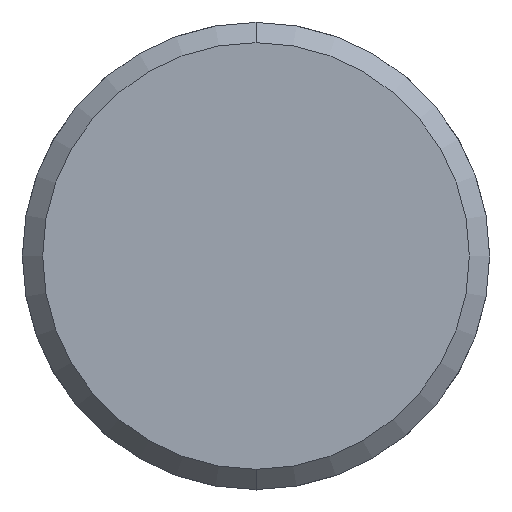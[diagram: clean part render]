
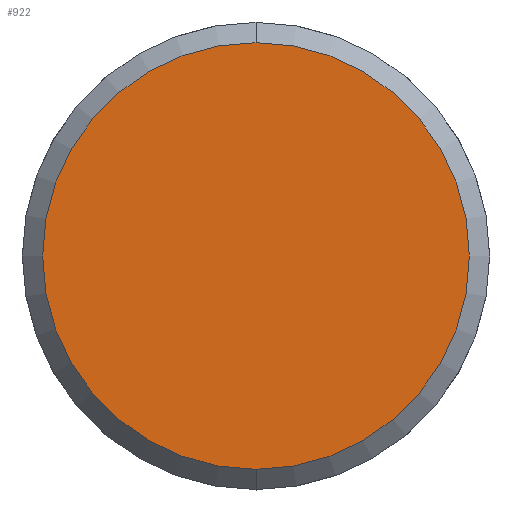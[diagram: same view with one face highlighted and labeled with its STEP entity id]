
A CAD part, front view. The second image highlights one B-rep face of the part: STEP entity #922.
In plain terms, the highlighted planar face has unit normal (0, -1, 0).
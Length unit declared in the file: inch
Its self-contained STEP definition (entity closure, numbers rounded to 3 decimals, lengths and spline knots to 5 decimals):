
#281 = DIRECTION ( 'NONE',  ( 0., 0., 1. ) ) ;
#282 = DIRECTION ( 'NONE',  ( 0., 1., 0. ) ) ;
#283 = CARTESIAN_POINT ( 'NONE',  ( -3.24238, 0.55938, 0. ) ) ;
#341 = ORIENTED_EDGE ( 'NONE', *, *, #1472, .F. ) ;
#365 = VERTEX_POINT ( 'NONE', #1195 ) ;
#398 = VERTEX_POINT ( 'NONE', #1168 ) ;
#408 = EDGE_LOOP ( 'NONE', ( #341, #410 ) ) ;
#410 = ORIENTED_EDGE ( 'NONE', *, *, #1432, .F. ) ;
#459 = CIRCLE ( 'NONE', #1048, 0.658 ) ;
#565 = AXIS2_PLACEMENT_3D ( 'NONE', #829, #828, #823 ) ;
#678 = PLANE ( 'NONE',  #565 ) ;
#823 = DIRECTION ( 'NONE',  ( 0., 0., -1. ) ) ;
#828 = DIRECTION ( 'NONE',  ( 0., -1., 0. ) ) ;
#829 = CARTESIAN_POINT ( 'NONE',  ( 0., 0.55938, 0. ) ) ;
#912 = CIRCLE ( 'NONE', #1030, 0.658 ) ;
#922 = ADVANCED_FACE ( 'NONE', ( #1539 ), #678, .T. ) ;
#1030 = AXIS2_PLACEMENT_3D ( 'NONE', #283, #282, #281 ) ;
#1048 = AXIS2_PLACEMENT_3D ( 'NONE', #1349, #1296, #1286 ) ;
#1168 = CARTESIAN_POINT ( 'NONE',  ( -3.24238, 0.55938, -0.658 ) ) ;
#1195 = CARTESIAN_POINT ( 'NONE',  ( -3.24238, 0.55938, 0.658 ) ) ;
#1286 = DIRECTION ( 'NONE',  ( 0., 0., 1. ) ) ;
#1296 = DIRECTION ( 'NONE',  ( 0., 1., 0. ) ) ;
#1349 = CARTESIAN_POINT ( 'NONE',  ( -3.24238, 0.55938, 0. ) ) ;
#1432 = EDGE_CURVE ( 'NONE', #398, #365, #459, .T. ) ;
#1472 = EDGE_CURVE ( 'NONE', #365, #398, #912, .T. ) ;
#1539 = FACE_OUTER_BOUND ( 'NONE', #408, .T. ) ;
